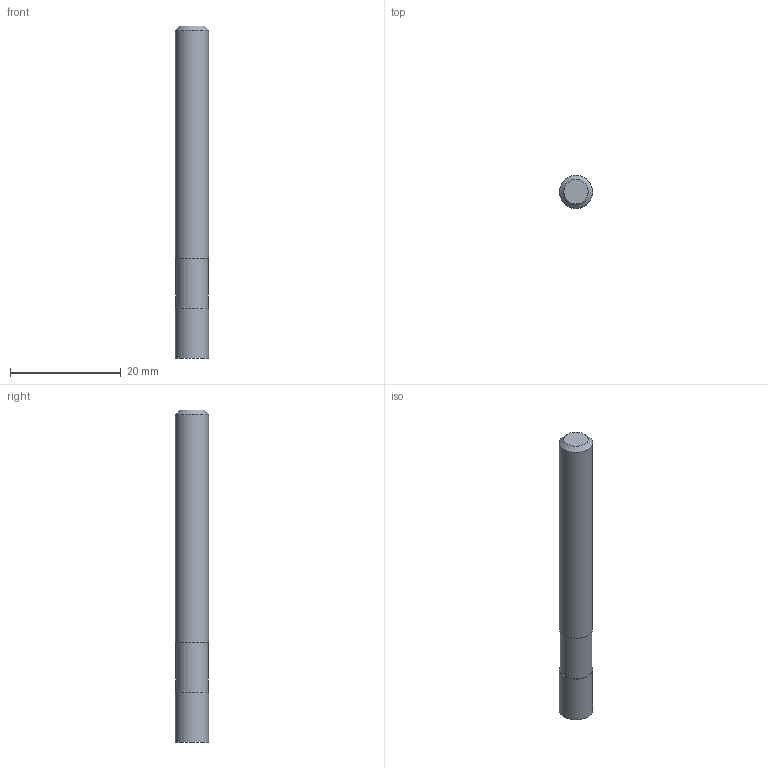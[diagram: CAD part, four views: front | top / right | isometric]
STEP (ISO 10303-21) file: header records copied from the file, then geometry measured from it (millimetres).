
FILE_DESCRIPTION((''),'2;1');
FILE_NAME('C:\Users\nsx150\AppData\Local\Temp\Mastercam 2021\EUJSUNXURU\TEMP.step','2021-04-22T10:35:35',(''),(''),'STEP Write','Mastercam 2021 ... CNC Software, Inc.','');
FILE_SCHEMA(('AUTOMOTIVE_DESIGN'));
Length unit declared in the file: millimetre
Products named in the file (1): None
Bounding box: 6 x 6 x 60 mm (x, y, z)
Volume: 1674.3 mm3; surface area: 1228.7 mm2
Topology: 2 solids, 2 shells, 9 faces, 11 edges, 7 vertices
Faces by surface type: plane 5, cylinder 3, cone 1
Full cylindrical faces by diameter (mm): 5.8 x1, 6 x2
Entity records: 211 total; most frequent: DIRECTION 36, CARTESIAN_POINT 25, AXIS2_PLACEMENT_3D 18, ORIENTED_EDGE 14, EDGE_LOOP 14, STYLED_ITEM 12, ADVANCED_FACE 9, FACE_BOUND 8
